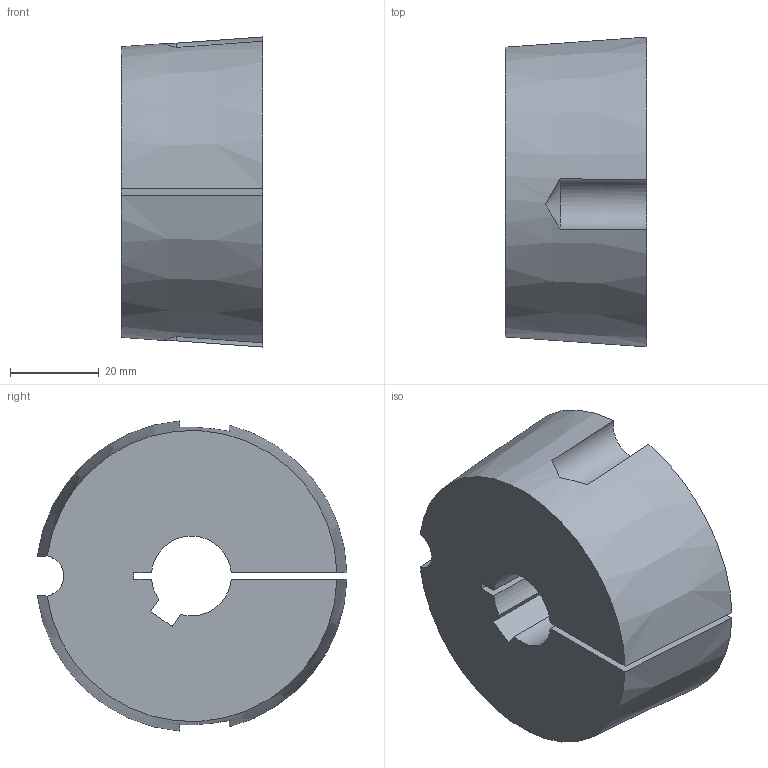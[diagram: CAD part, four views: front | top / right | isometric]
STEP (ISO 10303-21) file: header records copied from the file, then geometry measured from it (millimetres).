
FILE_DESCRIPTION( ( 'STEP AP203' ), '1' );
FILE_NAME( 'D:/export/antriebselemente/spannbuchsen_und_spannsaetze/taper-spannbuchsen_1008_bis_5050/taper-spannbuchsen_62250518Isometric_112.stp', '2018-12-11T11:11:11', ( '' ), ( '' ), ' ', 'PARTsolutions', ' ' );
FILE_SCHEMA( ( 'CONFIG_CONTROL_DESIGN' ) );
Length unit declared in the file: millimetre
Products named in the file (1): _taper-spannbuchsen_62250518
Bounding box: 31.8 x 69.72 x 69.81 mm (x, y, z)
Volume: 101138.5 mm3; surface area: 17466.7 mm2
Topology: 1 solids, 1 shells, 20 faces, 54 edges, 36 vertices
Faces by surface type: plane 10, cylinder 6, cone 4
Entity records: 752 total; most frequent: CARTESIAN_POINT 203, ORIENTED_EDGE 108, DIRECTION 104, EDGE_CURVE 54, AXIS2_PLACEMENT_3D 39, VERTEX_POINT 36, LINE 26, VECTOR 26
